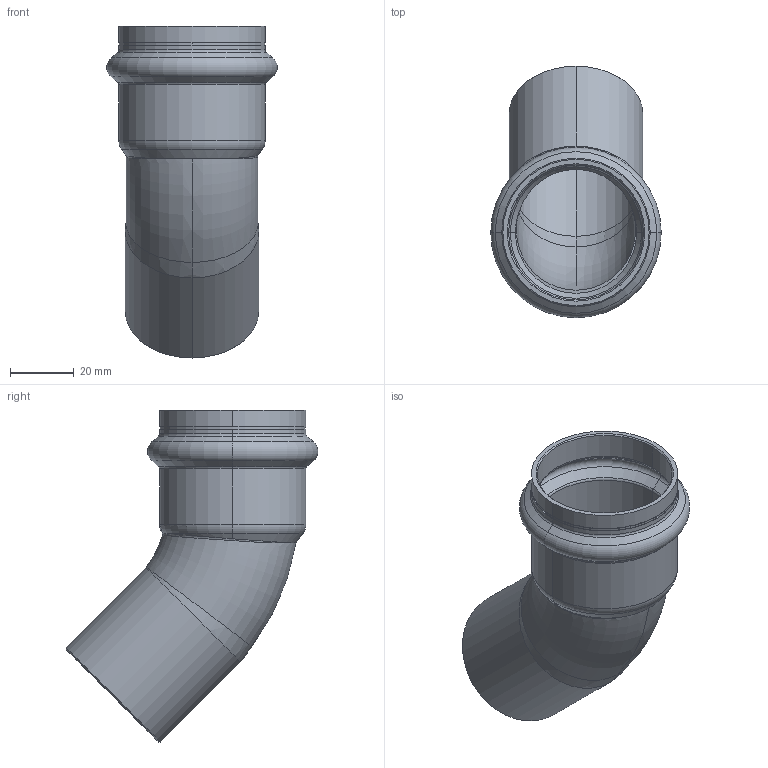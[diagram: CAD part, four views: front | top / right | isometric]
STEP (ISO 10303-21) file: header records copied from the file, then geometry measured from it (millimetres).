
FILE_DESCRIPTION (( 'STEP AP203' ), '1' );
FILE_NAME ('SP5040 Ø42.STEP', '2017-04-24T08:11:00', ( '' ), ( '' ), 'SwSTEP 2.0', 'SolidWorks 2016', '' );
FILE_SCHEMA (( 'CONFIG_CONTROL_DESIGN' ));
Length unit declared in the file: millimetre
Products named in the file (1): SP5040 ﾘ42
Bounding box: 53.6 x 79.2 x 104.4 mm (x, y, z)
Volume: 27012.6 mm3; surface area: 28755.4 mm2
Topology: 1 solids, 1 shells, 66 faces, 140 edges, 78 vertices
Faces by surface type: torus 20, cone 17, cylinder 16, bspline 7, plane 6
Entity records: 2666 total; most frequent: CARTESIAN_POINT 1177, DIRECTION 326, ORIENTED_EDGE 280, AXIS2_PLACEMENT_3D 147, EDGE_CURVE 140, CIRCLE 87, VERTEX_POINT 78, EDGE_LOOP 70
